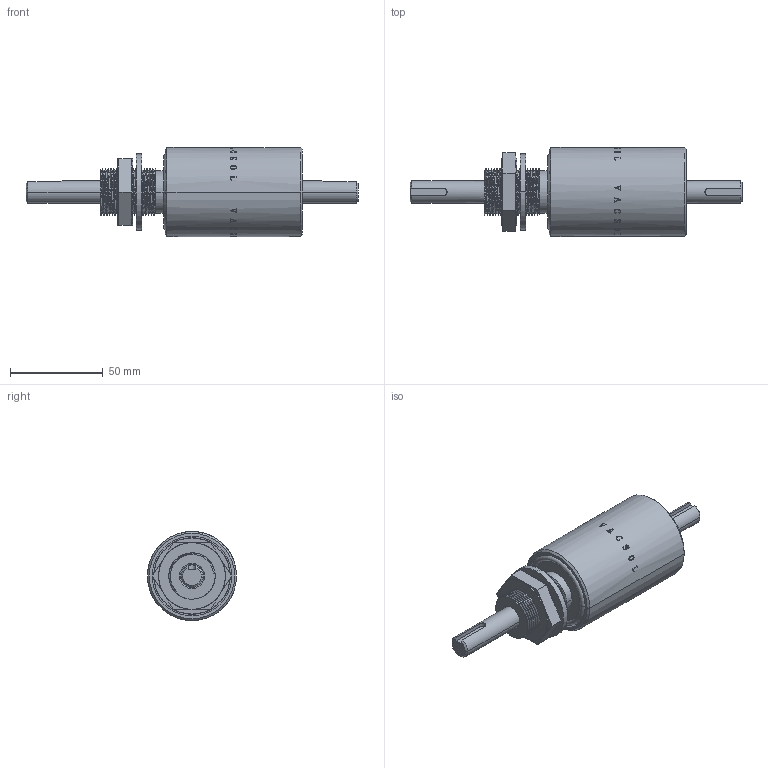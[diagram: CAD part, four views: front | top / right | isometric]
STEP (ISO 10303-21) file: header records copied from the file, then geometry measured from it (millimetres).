
FILE_DESCRIPTION (( 'STEP AP214' ), '1' );
FILE_NAME ('m12.STEP', '2010-08-26T13:12:55', ( 'user' ), ( '' ), 'SwSTEP 2.0', 'SolidWorks 2007', '' );
FILE_SCHEMA (( 'AUTOMOTIVE_DESIGN' ));
Length unit declared in the file: millimetre
Products named in the file (1): m12
Bounding box: 179 x 48 x 48 mm (x, y, z)
Volume: 164384.9 mm3; surface area: 27551.8 mm2
Topology: 2 solids, 2 shells, 448 faces, 1200 edges, 788 vertices
Faces by surface type: bspline 261, cylinder 85, plane 84, cone 14, torus 4
Entity records: 44592 total; most frequent: CARTESIAN_POINT 32260, ORIENTED_EDGE 2400, EDGE_CURVE 1200, DIRECTION 833, B_SPLINE_CURVE_WITH_KNOTS 819, VERTEX_POINT 788, EDGE_LOOP 484, FACE_OUTER_BOUND 448
